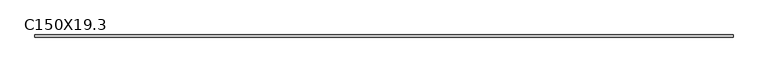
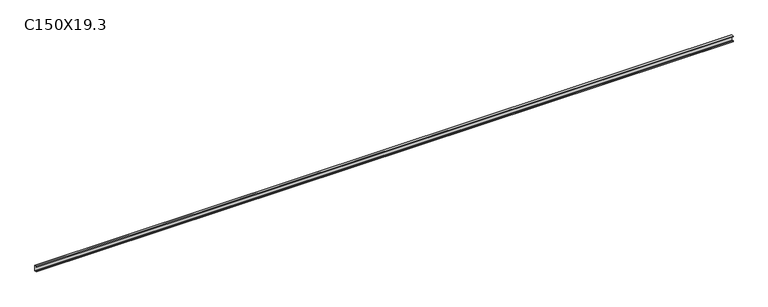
"""IFC4 building model written with IfcOpenShell, lengths in millimetres: beam geometry, EST-PER-C-HGalv : C150X19.3."""

from ifc_helpers import new_model, si_unit, frame, origin, place, context, project, spatial, polyline, outline, extrude, source, transform, mapped, element, save


def c150x19_3_91954537(model_context):
    return source(origin(), model_context, "Body", "SweptSolid", [
        extrude(outline(polyline([(13.1, 80.0), (13.1, -80.0), (-46.9, -80.0), (-46.9, -60.0), (-44.9, -60.0), (-44.9, -78.0), (11.1, -78.0), (11.1, 78.0), (-44.9, 78.0), (-44.9, 60.0), (-46.9, 60.0), (-46.9, 80.0), (13.1, 80.0)])), frame((-10215.0, 0.0, 0.0), z_axis=(1.0, 0.0, 0.0), x_axis=(0.0, 1.0, 0.0)), (0.0, 0.0, 1.0), 19536.9148487),
    ])


if __name__ == "__main__":
    model = new_model("IFC4")
    model_context = context("Model", 3, world=origin())
    ifc_project = project(units=[si_unit("LENGTHUNIT", "METRE", prefix="MILLI")], contexts=[model_context])
    site = spatial("IfcSite", under=ifc_project)
    building = spatial("IfcBuilding", under=site)
    placement = place(None, origin())
    c150x19_3_shape = c150x19_3_91954537(model_context)
    element("IfcBeam", 1, ObjectType="EST-PER-C-HGalv : C150X19.3", at=placement, inside=building, context=model_context, shape_type="MappedRepresentation", body=[
        mapped(c150x19_3_shape, transform((0.0, 0.0, 0.0), x_axis=(1.0, 0.0, 0.0), y_axis=(0.0, 1.0, 0.0), z_axis=(0.0, 0.0, 1.0))),
    ])
    save(model, "model.ifc")
